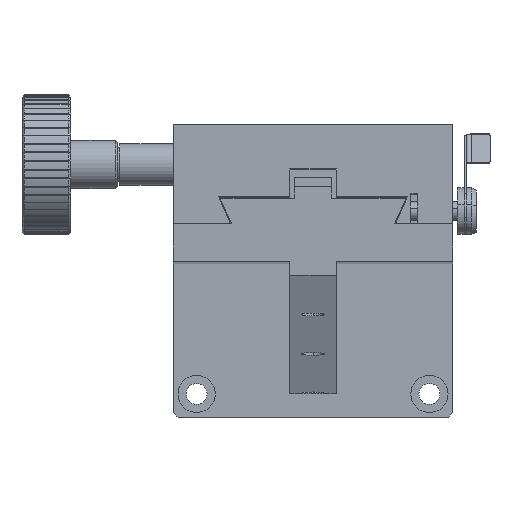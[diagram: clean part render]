
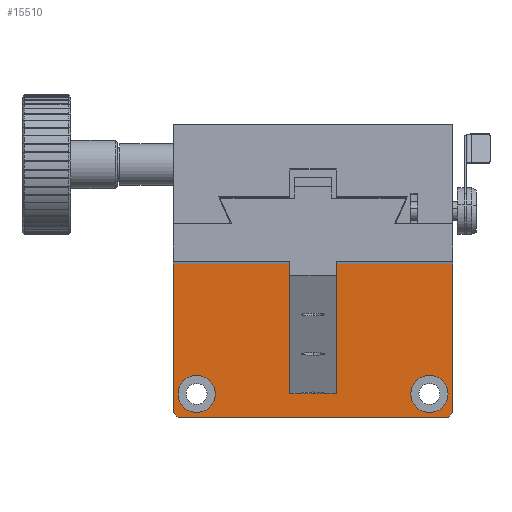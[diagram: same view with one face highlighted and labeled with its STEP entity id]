
A CAD part, top view. The second image highlights one B-rep face of the part: STEP entity #15510.
In plain terms, the highlighted planar face has unit normal (0, 0, 1).
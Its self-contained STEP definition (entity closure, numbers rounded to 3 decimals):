
#49 = CARTESIAN_POINT ( 'NONE',  ( -21., -28., 0. ) ) ;
#539 = CARTESIAN_POINT ( 'NONE',  ( 0., 0., 0. ) ) ;
#715 = ORIENTED_EDGE ( 'NONE', *, *, #28440, .T. ) ;
#818 = CARTESIAN_POINT ( 'NONE',  ( 30., 0., 0. ) ) ;
#1449 = LINE ( 'NONE', #12588, #27118 ) ;
#1552 = VECTOR ( 'NONE', #9292, 1000. ) ;
#1571 = VECTOR ( 'NONE', #3221, 1000. ) ;
#1904 = LINE ( 'NONE', #9587, #9955 ) ;
#2041 = VERTEX_POINT ( 'NONE', #29949 ) ;
#2157 = VECTOR ( 'NONE', #26951, 1000. ) ;
#2205 = EDGE_LOOP ( 'NONE', ( #23798, #4501 ) ) ;
#2532 = DIRECTION ( 'NONE',  ( 1., 0., 0. ) ) ;
#2718 = DIRECTION ( 'NONE',  ( 0., 0., -1. ) ) ;
#2750 = CARTESIAN_POINT ( 'NONE',  ( -5., 0., 0. ) ) ;
#3221 = DIRECTION ( 'NONE',  ( 0., -1., 0. ) ) ;
#3456 = CARTESIAN_POINT ( 'NONE',  ( -30., 0., 0. ) ) ;
#4093 = CIRCLE ( 'NONE', #14371, 4. ) ;
#4310 = LINE ( 'NONE', #29879, #2157 ) ;
#4501 = ORIENTED_EDGE ( 'NONE', *, *, #11551, .T. ) ;
#4570 = DIRECTION ( 'NONE',  ( 1., 0., 0. ) ) ;
#4577 = CARTESIAN_POINT ( 'NONE',  ( -25., -28., 0. ) ) ;
#4751 = ORIENTED_EDGE ( 'NONE', *, *, #16191, .T. ) ;
#4806 = CARTESIAN_POINT ( 'NONE',  ( 25., -28., 0. ) ) ;
#4911 = VERTEX_POINT ( 'NONE', #13058 ) ;
#4925 = FACE_BOUND ( 'NONE', #2205, .T. ) ;
#5104 = VECTOR ( 'NONE', #30734, 1000. ) ;
#5508 = VERTEX_POINT ( 'NONE', #7501 ) ;
#5683 = ORIENTED_EDGE ( 'NONE', *, *, #20608, .T. ) ;
#5895 = PLANE ( 'NONE',  #30016 ) ;
#5974 = CARTESIAN_POINT ( 'NONE',  ( 29., -33., 0. ) ) ;
#6197 = CARTESIAN_POINT ( 'NONE',  ( 5., 0., 0. ) ) ;
#6559 = VERTEX_POINT ( 'NONE', #34267 ) ;
#6794 = CARTESIAN_POINT ( 'NONE',  ( -30., 0., 0. ) ) ;
#7132 = EDGE_CURVE ( 'NONE', #15934, #10111, #12814, .T. ) ;
#7350 = VERTEX_POINT ( 'NONE', #27546 ) ;
#7399 = LINE ( 'NONE', #28849, #20846 ) ;
#7501 = CARTESIAN_POINT ( 'NONE',  ( -30., 0., 0. ) ) ;
#7910 = ORIENTED_EDGE ( 'NONE', *, *, #31775, .T. ) ;
#8075 = CARTESIAN_POINT ( 'NONE',  ( -25., -28., 0. ) ) ;
#8331 = VERTEX_POINT ( 'NONE', #14698 ) ;
#8463 = LINE ( 'NONE', #14671, #32842 ) ;
#8604 = DIRECTION ( 'NONE',  ( 1., 0., 0. ) ) ;
#9081 = ORIENTED_EDGE ( 'NONE', *, *, #22197, .T. ) ;
#9292 = DIRECTION ( 'NONE',  ( -1., 0., 0. ) ) ;
#9587 = CARTESIAN_POINT ( 'NONE',  ( 0., -28., 0. ) ) ;
#9955 = VECTOR ( 'NONE', #12507, 1000. ) ;
#10111 = VERTEX_POINT ( 'NONE', #15752 ) ;
#10140 = DIRECTION ( 'NONE',  ( -1., 0., 0. ) ) ;
#10238 = AXIS2_PLACEMENT_3D ( 'NONE', #4577, #23347, #12673 ) ;
#10767 = DIRECTION ( 'NONE',  ( 1., 0., 0. ) ) ;
#11329 = EDGE_CURVE ( 'NONE', #12331, #6559, #13806, .T. ) ;
#11551 = EDGE_CURVE ( 'NONE', #10111, #15934, #4093, .T. ) ;
#11780 = CARTESIAN_POINT ( 'NONE',  ( -5., 0., 0. ) ) ;
#11954 = EDGE_CURVE ( 'NONE', #8331, #4911, #1904, .T. ) ;
#12255 = LINE ( 'NONE', #2750, #34138 ) ;
#12328 = AXIS2_PLACEMENT_3D ( 'NONE', #31652, #2718, #10767 ) ;
#12331 = VERTEX_POINT ( 'NONE', #818 ) ;
#12507 = DIRECTION ( 'NONE',  ( -1., 0., 0. ) ) ;
#12588 = CARTESIAN_POINT ( 'NONE',  ( 0., 0., 0. ) ) ;
#12673 = DIRECTION ( 'NONE',  ( 1., 0., 0. ) ) ;
#12801 = LINE ( 'NONE', #5974, #26236 ) ;
#12814 = CIRCLE ( 'NONE', #10238, 4. ) ;
#13058 = CARTESIAN_POINT ( 'NONE',  ( -5., -28., 0. ) ) ;
#13436 = VERTEX_POINT ( 'NONE', #23584 ) ;
#13806 = LINE ( 'NONE', #6794, #1552 ) ;
#14028 = EDGE_CURVE ( 'NONE', #2041, #12331, #4310, .T. ) ;
#14371 = AXIS2_PLACEMENT_3D ( 'NONE', #8075, #16325, #2532 ) ;
#14671 = CARTESIAN_POINT ( 'NONE',  ( -30., -32., 0. ) ) ;
#14698 = CARTESIAN_POINT ( 'NONE',  ( 5., -28., 0. ) ) ;
#14938 = EDGE_CURVE ( 'NONE', #13436, #7350, #24406, .T. ) ;
#15131 = EDGE_CURVE ( 'NONE', #8331, #6559, #26537, .T. ) ;
#15510 = ADVANCED_FACE ( 'NONE', ( #22145, #21719, #4925 ), #5895, .T. ) ;
#15628 = VERTEX_POINT ( 'NONE', #11780 ) ;
#15752 = CARTESIAN_POINT ( 'NONE',  ( -29., -28., 0. ) ) ;
#15934 = VERTEX_POINT ( 'NONE', #49 ) ;
#16191 = EDGE_CURVE ( 'NONE', #31121, #20163, #7399, .T. ) ;
#16325 = DIRECTION ( 'NONE',  ( 0., 0., -1. ) ) ;
#17161 = DIRECTION ( 'NONE',  ( 0.707, -0.707, 0. ) ) ;
#18663 = VERTEX_POINT ( 'NONE', #24116 ) ;
#19233 = ORIENTED_EDGE ( 'NONE', *, *, #11954, .T. ) ;
#19496 = ORIENTED_EDGE ( 'NONE', *, *, #14938, .T. ) ;
#19675 = LINE ( 'NONE', #3456, #1571 ) ;
#19834 = ORIENTED_EDGE ( 'NONE', *, *, #11329, .T. ) ;
#20163 = VERTEX_POINT ( 'NONE', #21552 ) ;
#20608 = EDGE_CURVE ( 'NONE', #7350, #13436, #21593, .T. ) ;
#20846 = VECTOR ( 'NONE', #21331, 1000. ) ;
#21331 = DIRECTION ( 'NONE',  ( 1., 0., 0. ) ) ;
#21552 = CARTESIAN_POINT ( 'NONE',  ( 29., -33., 0. ) ) ;
#21593 = CIRCLE ( 'NONE', #12328, 4. ) ;
#21719 = FACE_BOUND ( 'NONE', #27593, .T. ) ;
#22045 = DIRECTION ( 'NONE',  ( 0.707, 0.707, 0. ) ) ;
#22128 = AXIS2_PLACEMENT_3D ( 'NONE', #4806, #23688, #4570 ) ;
#22145 = FACE_OUTER_BOUND ( 'NONE', #34673, .T. ) ;
#22197 = EDGE_CURVE ( 'NONE', #4911, #15628, #12255, .T. ) ;
#23347 = DIRECTION ( 'NONE',  ( 0., 0., -1. ) ) ;
#23584 = CARTESIAN_POINT ( 'NONE',  ( 21., -28., 0. ) ) ;
#23688 = DIRECTION ( 'NONE',  ( 0., 0., -1. ) ) ;
#23798 = ORIENTED_EDGE ( 'NONE', *, *, #7132, .T. ) ;
#24116 = CARTESIAN_POINT ( 'NONE',  ( -30., -32., 0. ) ) ;
#24366 = DIRECTION ( 'NONE',  ( 0., 1., 0. ) ) ;
#24406 = CIRCLE ( 'NONE', #22128, 4. ) ;
#24662 = DIRECTION ( 'NONE',  ( 0., 0., 1. ) ) ;
#26236 = VECTOR ( 'NONE', #22045, 1000. ) ;
#26354 = ORIENTED_EDGE ( 'NONE', *, *, #14028, .T. ) ;
#26537 = LINE ( 'NONE', #6197, #5104 ) ;
#26951 = DIRECTION ( 'NONE',  ( 0., 1., 0. ) ) ;
#27118 = VECTOR ( 'NONE', #10140, 1000. ) ;
#27546 = CARTESIAN_POINT ( 'NONE',  ( 29., -28., 0. ) ) ;
#27593 = EDGE_LOOP ( 'NONE', ( #5683, #19496 ) ) ;
#28440 = EDGE_CURVE ( 'NONE', #15628, #5508, #1449, .T. ) ;
#28849 = CARTESIAN_POINT ( 'NONE',  ( 0., -33., 0. ) ) ;
#29879 = CARTESIAN_POINT ( 'NONE',  ( 30., 0., 0. ) ) ;
#29949 = CARTESIAN_POINT ( 'NONE',  ( 30., -32., 0. ) ) ;
#30016 = AXIS2_PLACEMENT_3D ( 'NONE', #539, #24662, #8604 ) ;
#30191 = ORIENTED_EDGE ( 'NONE', *, *, #30298, .T. ) ;
#30298 = EDGE_CURVE ( 'NONE', #20163, #2041, #12801, .T. ) ;
#30734 = DIRECTION ( 'NONE',  ( 0., 1., 0. ) ) ;
#30746 = ORIENTED_EDGE ( 'NONE', *, *, #33224, .T. ) ;
#31121 = VERTEX_POINT ( 'NONE', #32371 ) ;
#31652 = CARTESIAN_POINT ( 'NONE',  ( 25., -28., 0. ) ) ;
#31775 = EDGE_CURVE ( 'NONE', #18663, #31121, #8463, .T. ) ;
#32371 = CARTESIAN_POINT ( 'NONE',  ( -29., -33., 0. ) ) ;
#32390 = ORIENTED_EDGE ( 'NONE', *, *, #15131, .F. ) ;
#32842 = VECTOR ( 'NONE', #17161, 1000. ) ;
#33224 = EDGE_CURVE ( 'NONE', #5508, #18663, #19675, .T. ) ;
#34138 = VECTOR ( 'NONE', #24366, 1000. ) ;
#34267 = CARTESIAN_POINT ( 'NONE',  ( 5., 0., 0. ) ) ;
#34673 = EDGE_LOOP ( 'NONE', ( #9081, #715, #30746, #7910, #4751, #30191, #26354, #19834, #32390, #19233 ) ) ;
